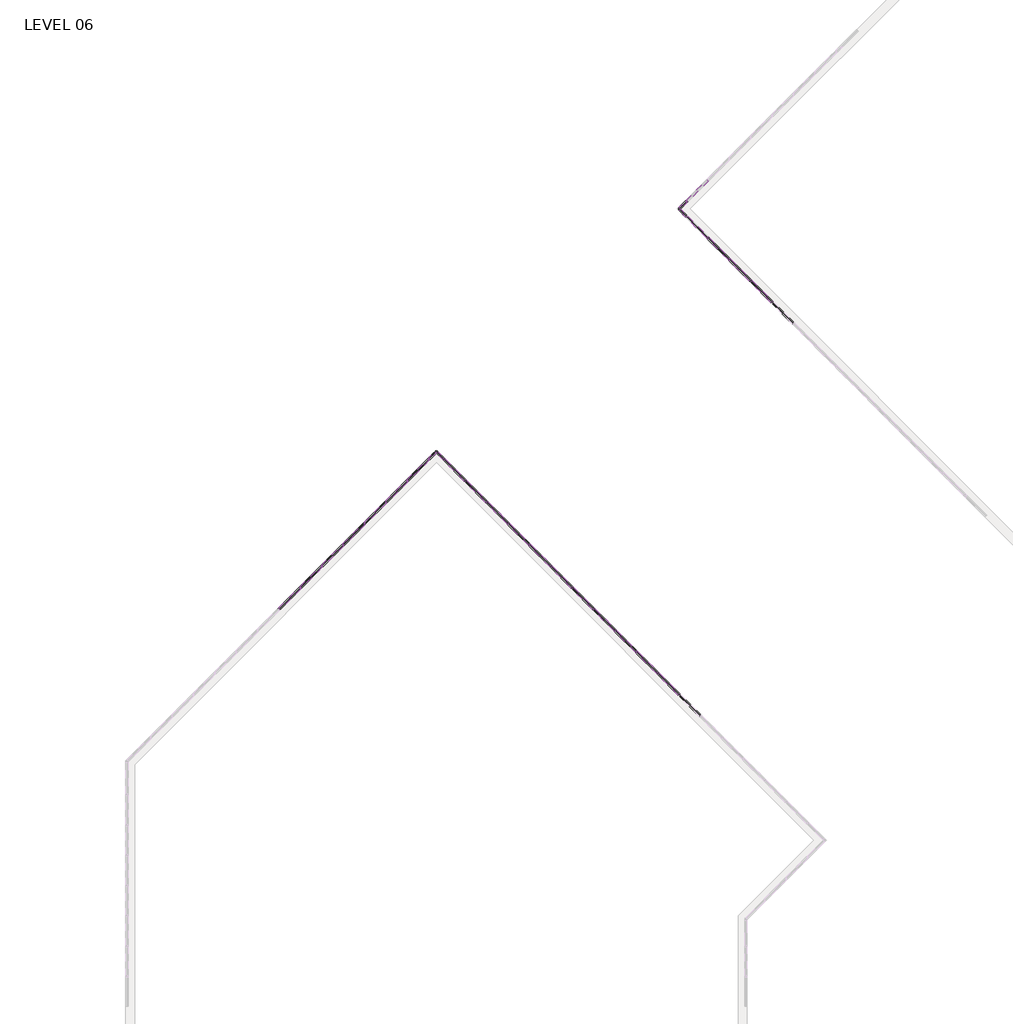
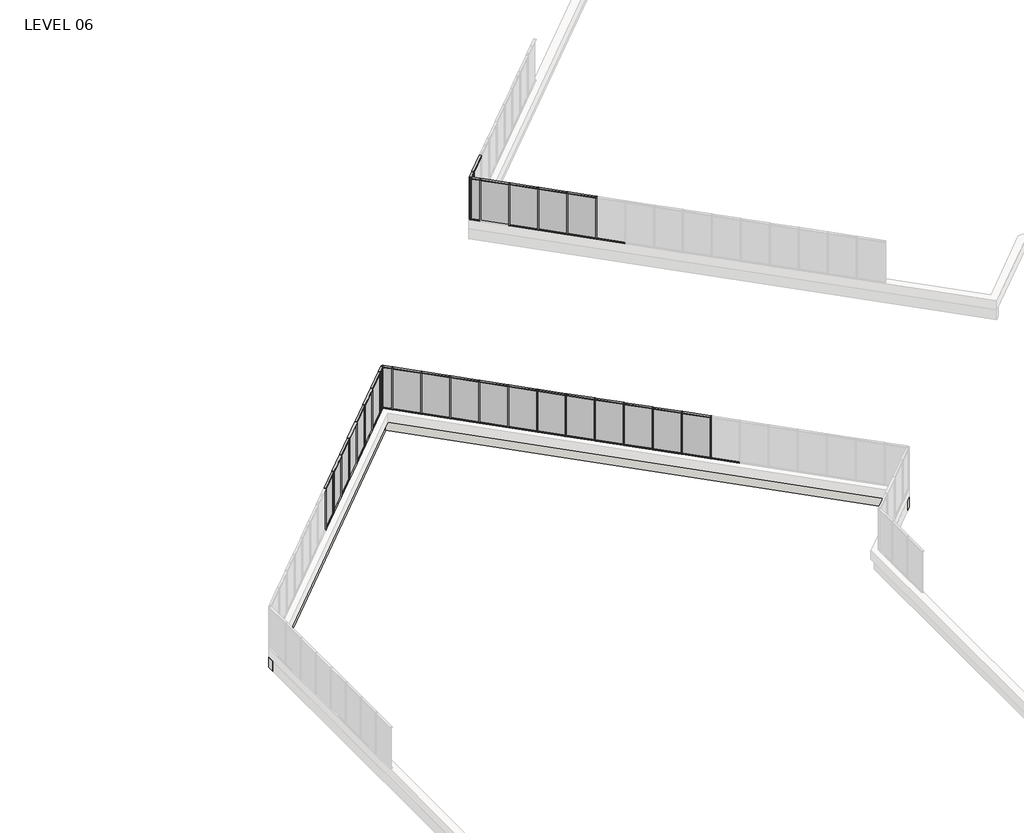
# One storey, part 6 of 17: 83 members, 26 plates, 2 walls.
"""IFC4 building model written with IfcOpenShell, lengths in millimetres."""

from ifc_helpers import new_model, si_unit, origin, place, context, project, spatial, faceted_brep, transform, mapped, element, save
from components import member_5247f267, member_e44af9ab, member_800970d4, member_ac5115e9, member_25b26a38, member_910c08c9, plate_67294edd, plate_c01932d8, plate_6d527a83, plate_88df3e37

model = new_model("IFC4")

# Units and contexts
model_context = context("Model", 3, world=origin())
ifc_project = project(units=[si_unit("LENGTHUNIT", "METRE", prefix="MILLI")], contexts=[model_context])

# Site, building, storey
site = spatial("IfcSite", under=ifc_project)
building = spatial("IfcBuilding", under=site)
storey = spatial("IfcBuildingStorey", under=building, Name="LEVEL 06", Elevation=19596.1)

# Members
placement = place(None, origin())
member_shape = member_5247f267(model_context)
element("IfcMember", 1, ObjectType="Rectangular Mullion : 2\" x 4.5\" rectangular", at=placement, inside=storey, context=model_context, shape_type="MappedRepresentation", body=[
    mapped(member_shape, transform((-3497.8097592, 103063.8559285, 19596.1), x_axis=(0.0, 0.0, -1.0), y_axis=(-0.7071067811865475, -0.7071067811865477, 0.0), z_axis=(-0.7071067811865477, 0.7071067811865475, 0.0))),
])
element("IfcMember", 2, ObjectType="Rectangular Mullion : 2\" x 4.5\" rectangular", at=placement, inside=storey, context=model_context, shape_type="MappedRepresentation", body=[
    mapped(member_shape, transform((-2420.1790246, 101986.2251939, 19596.1), x_axis=(0.0, 0.0, -1.0), y_axis=(-0.7071067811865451, -0.7071067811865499, 0.0), z_axis=(-0.7071067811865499, 0.7071067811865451, 0.0))),
])
element("IfcMember", 3, ObjectType="Rectangular Mullion : 2\" x 4.5\" rectangular", at=placement, inside=storey, context=model_context, shape_type="MappedRepresentation", body=[
    mapped(member_shape, transform((-1342.5482901, 100908.5944594, 19596.1), x_axis=(0.0, 0.0, -1.0), y_axis=(-0.7071067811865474, -0.7071067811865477, 0.0), z_axis=(-0.7071067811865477, 0.7071067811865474, 0.0))),
])
element("IfcMember", 4, ObjectType="Rectangular Mullion : 2\" x 4.5\" rectangular", at=placement, inside=storey, context=model_context, shape_type="MappedRepresentation", body=[
    mapped(member_shape, transform((-264.9175556, 99830.9637249, 19596.1), x_axis=(0.0, 0.0, -1.0), y_axis=(-0.7071067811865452, -0.7071067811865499, 0.0), z_axis=(-0.7071067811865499, 0.7071067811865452, 0.0))),
])
element("IfcMember", 5, ObjectType="Rectangular Mullion : 2\" x 4.5\" rectangular", at=placement, inside=storey, context=model_context, shape_type="MappedRepresentation", body=[
    mapped(member_shape, transform((-4575.6191663, 104942.0892742, 22186.9), x_axis=(0.0, 0.0, 1.0), y_axis=(-0.7071067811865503, 0.7071067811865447, 0.0), z_axis=(-0.7071067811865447, -0.7071067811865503, 0.0))),
])
element("IfcMember", 6, ObjectType="Rectangular Mullion : 2\" x 4.5\" rectangular", at=placement, inside=storey, context=model_context, shape_type="MappedRepresentation", body=[
    mapped(member_shape, transform((-3533.7307836, 103099.7769529, 22186.9), x_axis=(0.0, 0.0, 1.0), y_axis=(-0.7071067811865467, -0.7071067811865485, 0.0), z_axis=(0.7071067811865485, -0.7071067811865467, 0.0))),
])
element("IfcMember", 7, ObjectType="Rectangular Mullion : 2\" x 4.5\" rectangular", at=placement, inside=storey, context=model_context, shape_type="MappedRepresentation", body=[
    mapped(member_shape, transform((-2456.1000491, 102022.1462184, 22186.9), x_axis=(0.0, 0.0, 1.0), y_axis=(-0.7071067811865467, -0.7071067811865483, 0.0), z_axis=(0.7071067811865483, -0.7071067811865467, 0.0))),
])
element("IfcMember", 8, ObjectType="Rectangular Mullion : 2\" x 4.5\" rectangular", at=placement, inside=storey, context=model_context, shape_type="MappedRepresentation", body=[
    mapped(member_shape, transform((-1378.4693146, 100944.5154839, 22186.9), x_axis=(0.0, 0.0, 1.0), y_axis=(-0.707106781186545, -0.7071067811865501, 0.0), z_axis=(0.7071067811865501, -0.707106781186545, 0.0))),
])
element("IfcMember", 9, ObjectType="Rectangular Mullion : 2\" x 4.5\" rectangular", at=placement, inside=storey, context=model_context, shape_type="MappedRepresentation", body=[
    mapped(member_shape, transform((-300.8385801, 99866.8847494, 22186.9), x_axis=(0.0, 0.0, 1.0), y_axis=(-0.7071067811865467, -0.7071067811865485, 0.0), z_axis=(0.7071067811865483, -0.7071067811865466, 0.0))),
])
member_2_shape = member_e44af9ab(model_context)
element("IfcMember", 10, ObjectType="Rectangular Mullion : 2\" x 4.5\" rectangular", at=placement, inside=storey, context=model_context, shape_type="MappedRepresentation", body=[
    mapped(member_2_shape, transform((-4593.5796786, 104924.128762, 19596.1), x_axis=(-0.7071067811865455, -0.7071067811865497, 0.0), y_axis=(-0.7071067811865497, 0.7071067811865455, 0.0), z_axis=(0.0, 0.0, -1.0))),
])
element("IfcMember", 11, ObjectType="Rectangular Mullion : 2\" x 4.5\" rectangular", at=placement, inside=storey, context=model_context, shape_type="MappedRepresentation", body=[
    mapped(member_2_shape, transform((-3515.7702714, 103081.8164407, 19596.1), x_axis=(0.7071067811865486, -0.7071067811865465, 0.0), y_axis=(-0.7071067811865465, -0.7071067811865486, 0.0), z_axis=(0.0, 0.0, -1.0))),
])
element("IfcMember", 12, ObjectType="Rectangular Mullion : 2\" x 4.5\" rectangular", at=placement, inside=storey, context=model_context, shape_type="MappedRepresentation", body=[
    mapped(member_2_shape, transform((-2438.1395369, 102004.1857062, 19596.1), x_axis=(0.7071067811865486, -0.7071067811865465, 0.0), y_axis=(-0.7071067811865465, -0.7071067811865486, 0.0), z_axis=(0.0, 0.0, -1.0))),
])
element("IfcMember", 13, ObjectType="Rectangular Mullion : 2\" x 4.5\" rectangular", at=placement, inside=storey, context=model_context, shape_type="MappedRepresentation", body=[
    mapped(member_2_shape, transform((-1360.5088023, 100926.5549716, 19596.1), x_axis=(0.7071067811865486, -0.7071067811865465, 0.0), y_axis=(-0.7071067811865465, -0.7071067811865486, 0.0), z_axis=(0.0, 0.0, -1.0))),
])
element("IfcMember", 14, ObjectType="Rectangular Mullion : 2\" x 4.5\" rectangular", at=placement, inside=storey, context=model_context, shape_type="MappedRepresentation", body=[
    mapped(member_2_shape, transform((-282.8780678, 99848.9242371, 19596.1), x_axis=(0.7071067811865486, -0.7071067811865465, 0.0), y_axis=(-0.7071067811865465, -0.7071067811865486, 0.0), z_axis=(0.0, 0.0, -1.0))),
])
member_3_shape = member_800970d4(model_context)
element("IfcMember", 15, ObjectType="Rectangular Mullion : 2\" x 4.5\" rectangular", at=placement, inside=storey, context=model_context, shape_type="MappedRepresentation", body=[
    mapped(member_3_shape, transform((-4975.8311356, 104541.8773049, 19596.1), x_axis=(-0.7071067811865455, -0.7071067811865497, 0.0), y_axis=(-0.7071067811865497, 0.7071067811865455, 0.0), z_axis=(0.0, 0.0, -1.0))),
])
element("IfcMember", 16, ObjectType="Rectangular Mullion : 2\" x 4.5\" rectangular", at=placement, inside=storey, context=model_context, shape_type="MappedRepresentation", body=[
    mapped(member_3_shape, transform((-4975.8311356, 104541.8773049, 22186.9), x_axis=(-0.7071067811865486, 0.7071067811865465, 0.0), y_axis=(-0.7071067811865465, -0.7071067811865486, 0.0), z_axis=(0.0, 0.0, 1.0))),
])
member_4_shape = member_ac5115e9(model_context)
element("IfcMember", 17, ObjectType="Rectangular Mullion : 2\" x 4.5\" rectangular", at=placement, inside=storey, context=model_context, shape_type="MappedRepresentation", body=[
    mapped(member_4_shape, transform((-4939.9101111, 104577.7983294, 22186.9), x_axis=(0.0, 0.0, 1.0), y_axis=(-0.7071067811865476, 0.7071067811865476, 0.0), z_axis=(-0.7071067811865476, -0.7071067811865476, 0.0))),
])
element("IfcMember", 18, ObjectType="Rectangular Mullion : 2\" x 4.5\" rectangular", at=placement, inside=storey, context=model_context, shape_type="MappedRepresentation", body=[
    mapped(member_4_shape, transform((-4611.5401908, 104906.1682497, 19596.1), x_axis=(0.0, 0.0, -1.0), y_axis=(-0.7071067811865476, 0.7071067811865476, 0.0), z_axis=(0.7071067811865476, 0.7071067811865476, 0.0))),
])
member_5_shape = member_25b26a38(model_context)
element("IfcMember", 19, ObjectType="Rectangular Mullion : 2\" x 4.5\" rectangular", at=placement, inside=storey, context=model_context, shape_type="MappedRepresentation", body=[
    mapped(member_5_shape, transform((-4939.9101111, 104505.9562804, 19596.1), x_axis=(0.0, 0.0, -1.0), y_axis=(-0.7071067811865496, -0.7071067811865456, 0.0), z_axis=(-0.7071067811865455, 0.7071067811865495, 0.0))),
])
element("IfcMember", 20, ObjectType="Rectangular Mullion : 2\" x 4.5\" rectangular", at=placement, inside=storey, context=model_context, shape_type="MappedRepresentation", body=[
    mapped(member_5_shape, transform((-4611.3615182, 104177.4076875, 22186.9), x_axis=(0.0, 0.0, 1.0), y_axis=(-0.707106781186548, -0.707106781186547, 0.0), z_axis=(0.707106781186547, -0.707106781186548, 0.0))),
])
element("IfcMember", 21, ObjectType="Rectangular Mullion : 2\" x 4.5\" rectangular", at=placement, inside=storey, context=model_context, shape_type="MappedRepresentation", body=[
    mapped(member_shape, transform((-24063.9560929, 85453.7523477, 22186.9), x_axis=(0.0, 0.0, 1.0), y_axis=(0.707106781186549, -0.7071067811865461, 0.0), z_axis=(0.7071067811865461, 0.707106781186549, 0.0))),
])
element("IfcMember", 22, ObjectType="Rectangular Mullion : 2\" x 4.5\" rectangular", at=placement, inside=storey, context=model_context, shape_type="MappedRepresentation", body=[
    mapped(member_shape, transform((-18675.8024202, 90841.9060203, 22186.9), x_axis=(0.0, 0.0, 1.0), y_axis=(0.707106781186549, -0.7071067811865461, 0.0), z_axis=(0.7071067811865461, 0.707106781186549, 0.0))),
])
element("IfcMember", 23, ObjectType="Rectangular Mullion : 2\" x 4.5\" rectangular", at=placement, inside=storey, context=model_context, shape_type="MappedRepresentation", body=[
    mapped(member_shape, transform((-21908.6946238, 87609.0138167, 22186.9), x_axis=(0.0, 0.0, 1.0), y_axis=(0.707106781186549, -0.7071067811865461, 0.0), z_axis=(0.7071067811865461, 0.707106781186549, 0.0))),
])
element("IfcMember", 24, ObjectType="Rectangular Mullion : 2\" x 4.5\" rectangular", at=placement, inside=storey, context=model_context, shape_type="MappedRepresentation", body=[
    mapped(member_shape, transform((-22986.3253583, 86531.3830822, 22186.9), x_axis=(0.0, 0.0, 1.0), y_axis=(0.7071067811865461, -0.707106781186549, 0.0), z_axis=(0.707106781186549, 0.7071067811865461, 0.0))),
])
element("IfcMember", 25, ObjectType="Rectangular Mullion : 2\" x 4.5\" rectangular", at=placement, inside=storey, context=model_context, shape_type="MappedRepresentation", body=[
    mapped(member_shape, transform((-20831.0638893, 88686.6445513, 22186.9), x_axis=(0.0, 0.0, 1.0), y_axis=(0.7071067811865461, -0.707106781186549, 0.0), z_axis=(0.707106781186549, 0.7071067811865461, 0.0))),
])
element("IfcMember", 26, ObjectType="Rectangular Mullion : 2\" x 4.5\" rectangular", at=placement, inside=storey, context=model_context, shape_type="MappedRepresentation", body=[
    mapped(member_shape, transform((-19753.4331548, 89764.2752858, 22186.9), x_axis=(0.0, 0.0, 1.0), y_axis=(0.7071067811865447, -0.7071067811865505, 0.0), z_axis=(0.7071067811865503, 0.7071067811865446, 0.0))),
])
element("IfcMember", 27, ObjectType="Rectangular Mullion : 2\" x 4.5\" rectangular", at=placement, inside=storey, context=model_context, shape_type="MappedRepresentation", body=[
    mapped(member_shape, transform((-17598.1716857, 91919.5367548, 22186.9), x_axis=(0.0, 0.0, 1.0), y_axis=(0.7071067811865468, -0.7071067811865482, 0.0), z_axis=(0.7071067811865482, 0.7071067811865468, 0.0))),
])
element("IfcMember", 28, ObjectType="Rectangular Mullion : 2\" x 4.5\" rectangular", at=placement, inside=storey, context=model_context, shape_type="MappedRepresentation", body=[
    mapped(member_shape, transform((-15755.8593644, 90877.6483722, 22186.9), x_axis=(0.0, 0.0, 1.0), y_axis=(-0.7071067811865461, -0.707106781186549, 0.0), z_axis=(0.707106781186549, -0.7071067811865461, 0.0))),
])
element("IfcMember", 29, ObjectType="Rectangular Mullion : 2\" x 4.5\" rectangular", at=placement, inside=storey, context=model_context, shape_type="MappedRepresentation", body=[
    mapped(member_shape, transform((-14678.2286299, 89800.0176376, 22186.9), x_axis=(0.0, 0.0, 1.0), y_axis=(-0.7071067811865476, -0.7071067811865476, 0.0), z_axis=(0.7071067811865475, -0.7071067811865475, 0.0))),
])
element("IfcMember", 30, ObjectType="Rectangular Mullion : 2\" x 4.5\" rectangular", at=placement, inside=storey, context=model_context, shape_type="MappedRepresentation", body=[
    mapped(member_shape, transform((-13600.5978954, 88722.3869031, 22186.9), x_axis=(0.0, 0.0, 1.0), y_axis=(-0.7071067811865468, -0.7071067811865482, 0.0), z_axis=(0.7071067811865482, -0.7071067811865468, 0.0))),
])
element("IfcMember", 31, ObjectType="Rectangular Mullion : 2\" x 4.5\" rectangular", at=placement, inside=storey, context=model_context, shape_type="MappedRepresentation", body=[
    mapped(member_shape, transform((-11445.3364263, 86567.125434, 22186.9), x_axis=(0.0, 0.0, 1.0), y_axis=(-0.7071067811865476, -0.7071067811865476, 0.0), z_axis=(0.7071067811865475, -0.7071067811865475, 0.0))),
])
element("IfcMember", 32, ObjectType="Rectangular Mullion : 2\" x 4.5\" rectangular", at=placement, inside=storey, context=model_context, shape_type="MappedRepresentation", body=[
    mapped(member_shape, transform((-10367.7056918, 85489.4946995, 22186.9), x_axis=(0.0, 0.0, 1.0), y_axis=(-0.7071067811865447, -0.7071067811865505, 0.0), z_axis=(0.7071067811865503, -0.7071067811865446, 0.0))),
])
element("IfcMember", 33, ObjectType="Rectangular Mullion : 2\" x 4.5\" rectangular", at=placement, inside=storey, context=model_context, shape_type="MappedRepresentation", body=[
    mapped(member_shape, transform((-9290.0749572, 84411.863965, 22186.9), x_axis=(0.0, 0.0, 1.0), y_axis=(-0.7071067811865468, -0.7071067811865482, 0.0), z_axis=(0.7071067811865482, -0.7071067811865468, 0.0))),
])
element("IfcMember", 34, ObjectType="Rectangular Mullion : 2\" x 4.5\" rectangular", at=placement, inside=storey, context=model_context, shape_type="MappedRepresentation", body=[
    mapped(member_shape, transform((-8212.4442227, 83334.2332305, 22186.9), x_axis=(0.0, 0.0, 1.0), y_axis=(-0.7071067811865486, -0.7071067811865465, 0.0), z_axis=(0.7071067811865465, -0.7071067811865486, 0.0))),
])
element("IfcMember", 35, ObjectType="Rectangular Mullion : 2\" x 4.5\" rectangular", at=placement, inside=storey, context=model_context, shape_type="MappedRepresentation", body=[
    mapped(member_shape, transform((-4979.9093644, 80101.6983722, 22186.9), x_axis=(0.0, 0.0, 1.0), y_axis=(-0.7071067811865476, -0.7071067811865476, 0.0), z_axis=(0.7071067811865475, -0.7071067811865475, 0.0))),
])
element("IfcMember", 36, ObjectType="Rectangular Mullion : 2\" x 4.5\" rectangular", at=placement, inside=storey, context=model_context, shape_type="MappedRepresentation", body=[
    mapped(member_shape, transform((-12522.9671608, 87644.7561686, 22186.9), x_axis=(0.0, 0.0, 1.0), y_axis=(-0.7071067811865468, -0.7071067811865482, 0.0), z_axis=(0.7071067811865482, -0.7071067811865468, 0.0))),
])
element("IfcMember", 37, ObjectType="Rectangular Mullion : 2\" x 4.5\" rectangular", at=placement, inside=storey, context=model_context, shape_type="MappedRepresentation", body=[
    mapped(member_shape, transform((-25105.6658029, 84412.0426376, 19596.1), x_axis=(0.0, 0.0, -1.0), y_axis=(0.707106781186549, -0.7071067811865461, 0.0), z_axis=(-0.7071067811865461, -0.707106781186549, 0.0))),
])
element("IfcMember", 38, ObjectType="Rectangular Mullion : 2\" x 4.5\" rectangular", at=placement, inside=storey, context=model_context, shape_type="MappedRepresentation", body=[
    mapped(member_shape, transform((-24028.0350684, 85489.6733722, 19596.1), x_axis=(0.0, 0.0, -1.0), y_axis=(0.7071067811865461, -0.707106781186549, 0.0), z_axis=(-0.707106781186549, -0.7071067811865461, 0.0))),
])
element("IfcMember", 39, ObjectType="Rectangular Mullion : 2\" x 4.5\" rectangular", at=placement, inside=storey, context=model_context, shape_type="MappedRepresentation", body=[
    mapped(member_shape, transform((-18639.8813957, 90877.8270448, 19596.1), x_axis=(0.0, 0.0, -1.0), y_axis=(0.7071067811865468, -0.7071067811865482, 0.0), z_axis=(-0.7071067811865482, -0.7071067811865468, 0.0))),
])
element("IfcMember", 40, ObjectType="Rectangular Mullion : 2\" x 4.5\" rectangular", at=placement, inside=storey, context=model_context, shape_type="MappedRepresentation", body=[
    mapped(member_shape, transform((-21872.7735993, 87644.9348412, 19596.1), x_axis=(0.0, 0.0, -1.0), y_axis=(0.7071067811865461, -0.707106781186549, 0.0), z_axis=(-0.707106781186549, -0.7071067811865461, 0.0))),
])
element("IfcMember", 41, ObjectType="Rectangular Mullion : 2\" x 4.5\" rectangular", at=placement, inside=storey, context=model_context, shape_type="MappedRepresentation", body=[
    mapped(member_shape, transform((-22950.4043339, 86567.3041067, 19596.1), x_axis=(0.0, 0.0, -1.0), y_axis=(0.707106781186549, -0.7071067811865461, 0.0), z_axis=(-0.7071067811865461, -0.707106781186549, 0.0))),
])
element("IfcMember", 42, ObjectType="Rectangular Mullion : 2\" x 4.5\" rectangular", at=placement, inside=storey, context=model_context, shape_type="MappedRepresentation", body=[
    mapped(member_shape, transform((-20795.1428648, 88722.5655757, 19596.1), x_axis=(0.0, 0.0, -1.0), y_axis=(0.7071067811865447, -0.7071067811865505, 0.0), z_axis=(-0.7071067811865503, -0.7071067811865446, 0.0))),
])
element("IfcMember", 43, ObjectType="Rectangular Mullion : 2\" x 4.5\" rectangular", at=placement, inside=storey, context=model_context, shape_type="MappedRepresentation", body=[
    mapped(member_shape, transform((-19717.5121303, 89800.1963103, 19596.1), x_axis=(0.0, 0.0, -1.0), y_axis=(0.707106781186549, -0.7071067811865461, 0.0), z_axis=(-0.7071067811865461, -0.707106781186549, 0.0))),
])
element("IfcMember", 44, ObjectType="Rectangular Mullion : 2\" x 4.5\" rectangular", at=placement, inside=storey, context=model_context, shape_type="MappedRepresentation", body=[
    mapped(member_shape, transform((-15719.9383399, 90841.7273477, 19596.1), x_axis=(0.0, 0.0, -1.0), y_axis=(-0.7071067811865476, -0.7071067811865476, 0.0), z_axis=(-0.7071067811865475, 0.7071067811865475, 0.0))),
])
element("IfcMember", 45, ObjectType="Rectangular Mullion : 2\" x 4.5\" rectangular", at=placement, inside=storey, context=model_context, shape_type="MappedRepresentation", body=[
    mapped(member_shape, transform((-14642.3076054, 89764.0966131, 19596.1), x_axis=(0.0, 0.0, -1.0), y_axis=(-0.707106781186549, -0.7071067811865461, 0.0), z_axis=(-0.7071067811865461, 0.707106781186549, 0.0))),
])
element("IfcMember", 46, ObjectType="Rectangular Mullion : 2\" x 4.5\" rectangular", at=placement, inside=storey, context=model_context, shape_type="MappedRepresentation", body=[
    mapped(member_shape, transform((-13564.6768709, 88686.4658786, 19596.1), x_axis=(0.0, 0.0, -1.0), y_axis=(-0.7071067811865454, -0.7071067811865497, 0.0), z_axis=(-0.7071067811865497, 0.7071067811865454, 0.0))),
])
element("IfcMember", 47, ObjectType="Rectangular Mullion : 2\" x 4.5\" rectangular", at=placement, inside=storey, context=model_context, shape_type="MappedRepresentation", body=[
    mapped(member_shape, transform((-11409.4154018, 86531.2044096, 19596.1), x_axis=(0.0, 0.0, -1.0), y_axis=(-0.7071067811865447, -0.7071067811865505, 0.0), z_axis=(-0.7071067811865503, 0.7071067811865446, 0.0))),
])
element("IfcMember", 48, ObjectType="Rectangular Mullion : 2\" x 4.5\" rectangular", at=placement, inside=storey, context=model_context, shape_type="MappedRepresentation", body=[
    mapped(member_shape, transform((-10331.7846673, 85453.573675, 19596.1), x_axis=(0.0, 0.0, -1.0), y_axis=(-0.7071067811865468, -0.7071067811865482, 0.0), z_axis=(-0.7071067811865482, 0.7071067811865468, 0.0))),
])
element("IfcMember", 49, ObjectType="Rectangular Mullion : 2\" x 4.5\" rectangular", at=placement, inside=storey, context=model_context, shape_type="MappedRepresentation", body=[
    mapped(member_shape, transform((-9254.1539328, 84375.9429405, 19596.1), x_axis=(0.0, 0.0, -1.0), y_axis=(-0.7071067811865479, -0.7071067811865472, 0.0), z_axis=(-0.7071067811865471, 0.7071067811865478, 0.0))),
])
element("IfcMember", 50, ObjectType="Rectangular Mullion : 2\" x 4.5\" rectangular", at=placement, inside=storey, context=model_context, shape_type="MappedRepresentation", body=[
    mapped(member_shape, transform((-6021.6190745, 81143.4080822, 19596.1), x_axis=(0.0, 0.0, -1.0), y_axis=(-0.7071067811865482, -0.7071067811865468, 0.0), z_axis=(-0.7071067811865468, 0.7071067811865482, 0.0))),
])
element("IfcMember", 51, ObjectType="Rectangular Mullion : 2\" x 4.5\" rectangular", at=placement, inside=storey, context=model_context, shape_type="MappedRepresentation", body=[
    mapped(member_shape, transform((-4943.9883399, 80065.7773477, 19596.1), x_axis=(0.0, 0.0, -1.0), y_axis=(-0.7071067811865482, -0.7071067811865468, 0.0), z_axis=(-0.7071067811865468, 0.7071067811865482, 0.0))),
])
element("IfcMember", 52, ObjectType="Rectangular Mullion : 2\" x 4.5\" rectangular", at=placement, inside=storey, context=model_context, shape_type="MappedRepresentation", body=[
    mapped(member_shape, transform((-12487.0461363, 87608.8351441, 19596.1), x_axis=(0.0, 0.0, -1.0), y_axis=(-0.7071067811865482, -0.7071067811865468, 0.0), z_axis=(-0.7071067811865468, 0.7071067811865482, 0.0))),
])
element("IfcMember", 53, ObjectType="Rectangular Mullion : 2\" x 4.5\" rectangular", at=placement, inside=storey, context=model_context, shape_type="MappedRepresentation", body=[
    mapped(member_shape, transform((-16797.5690745, 91919.3580822, 19596.1), x_axis=(0.0, 0.0, -1.0), y_axis=(-0.7071067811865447, -0.7071067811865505, 0.0), z_axis=(-0.7071067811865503, 0.7071067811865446, 0.0))),
])
element("IfcMember", 54, ObjectType="Rectangular Mullion : 2\" x 4.5\" rectangular", at=placement, inside=storey, context=model_context, shape_type="MappedRepresentation", body=[
    mapped(member_2_shape, transform((-25123.6263152, 84394.0821254, 19596.1), x_axis=(0.7071067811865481, 0.7071067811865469, 0.0), y_axis=(0.7071067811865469, -0.7071067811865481, 0.0), z_axis=(0.0, 0.0, -1.0))),
])
element("IfcMember", 55, ObjectType="Rectangular Mullion : 2\" x 4.5\" rectangular", at=placement, inside=storey, context=model_context, shape_type="MappedRepresentation", body=[
    mapped(member_2_shape, transform((-24045.9955806, 85471.7128599, 19596.1), x_axis=(0.7071067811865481, 0.7071067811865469, 0.0), y_axis=(0.7071067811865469, -0.7071067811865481, 0.0), z_axis=(0.0, 0.0, -1.0))),
])
element("IfcMember", 56, ObjectType="Rectangular Mullion : 2\" x 4.5\" rectangular", at=placement, inside=storey, context=model_context, shape_type="MappedRepresentation", body=[
    mapped(member_2_shape, transform((-18657.841908, 90859.8665326, 19596.1), x_axis=(0.7071067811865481, 0.7071067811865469, 0.0), y_axis=(0.7071067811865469, -0.7071067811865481, 0.0), z_axis=(0.0, 0.0, -1.0))),
])
element("IfcMember", 57, ObjectType="Rectangular Mullion : 2\" x 4.5\" rectangular", at=placement, inside=storey, context=model_context, shape_type="MappedRepresentation", body=[
    mapped(member_2_shape, transform((-21890.7341116, 87626.974329, 19596.1), x_axis=(0.7071067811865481, 0.7071067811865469, 0.0), y_axis=(0.7071067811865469, -0.7071067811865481, 0.0), z_axis=(0.0, 0.0, -1.0))),
])
element("IfcMember", 58, ObjectType="Rectangular Mullion : 2\" x 4.5\" rectangular", at=placement, inside=storey, context=model_context, shape_type="MappedRepresentation", body=[
    mapped(member_2_shape, transform((-22968.3648461, 86549.3435944, 19596.1), x_axis=(0.7071067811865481, 0.7071067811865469, 0.0), y_axis=(0.7071067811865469, -0.7071067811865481, 0.0), z_axis=(0.0, 0.0, -1.0))),
])
element("IfcMember", 59, ObjectType="Rectangular Mullion : 2\" x 4.5\" rectangular", at=placement, inside=storey, context=model_context, shape_type="MappedRepresentation", body=[
    mapped(member_2_shape, transform((-20813.103377, 88704.6050635, 19596.1), x_axis=(0.7071067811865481, 0.7071067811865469, 0.0), y_axis=(0.7071067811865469, -0.7071067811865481, 0.0), z_axis=(0.0, 0.0, -1.0))),
])
element("IfcMember", 60, ObjectType="Rectangular Mullion : 2\" x 4.5\" rectangular", at=placement, inside=storey, context=model_context, shape_type="MappedRepresentation", body=[
    mapped(member_2_shape, transform((-19735.4726425, 89782.235798, 19596.1), x_axis=(0.7071067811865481, 0.7071067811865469, 0.0), y_axis=(0.7071067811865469, -0.7071067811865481, 0.0), z_axis=(0.0, 0.0, -1.0))),
])
element("IfcMember", 61, ObjectType="Rectangular Mullion : 2\" x 4.5\" rectangular", at=placement, inside=storey, context=model_context, shape_type="MappedRepresentation", body=[
    mapped(member_2_shape, transform((-17580.2111735, 91937.4972671, 19596.1), x_axis=(0.7071067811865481, 0.7071067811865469, 0.0), y_axis=(0.7071067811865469, -0.7071067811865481, 0.0), z_axis=(0.0, 0.0, -1.0))),
])
element("IfcMember", 62, ObjectType="Rectangular Mullion : 2\" x 4.5\" rectangular", at=placement, inside=storey, context=model_context, shape_type="MappedRepresentation", body=[
    mapped(member_2_shape, transform((-15737.8988522, 90859.6878599, 19596.1), x_axis=(0.707106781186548, -0.7071067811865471, 0.0), y_axis=(-0.7071067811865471, -0.707106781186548, 0.0), z_axis=(0.0, 0.0, -1.0))),
])
element("IfcMember", 63, ObjectType="Rectangular Mullion : 2\" x 4.5\" rectangular", at=placement, inside=storey, context=model_context, shape_type="MappedRepresentation", body=[
    mapped(member_2_shape, transform((-14660.2681176, 89782.0571254, 19596.1), x_axis=(0.707106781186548, -0.7071067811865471, 0.0), y_axis=(-0.7071067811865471, -0.707106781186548, 0.0), z_axis=(0.0, 0.0, -1.0))),
])
element("IfcMember", 64, ObjectType="Rectangular Mullion : 2\" x 4.5\" rectangular", at=placement, inside=storey, context=model_context, shape_type="MappedRepresentation", body=[
    mapped(member_2_shape, transform((-13582.6373831, 88704.4263909, 19596.1), x_axis=(0.707106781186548, -0.7071067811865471, 0.0), y_axis=(-0.7071067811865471, -0.707106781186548, 0.0), z_axis=(0.0, 0.0, -1.0))),
])
element("IfcMember", 65, ObjectType="Rectangular Mullion : 2\" x 4.5\" rectangular", at=placement, inside=storey, context=model_context, shape_type="MappedRepresentation", body=[
    mapped(member_2_shape, transform((-11427.3759141, 86549.1649218, 19596.1), x_axis=(0.707106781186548, -0.7071067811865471, 0.0), y_axis=(-0.7071067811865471, -0.707106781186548, 0.0), z_axis=(0.0, 0.0, -1.0))),
])
element("IfcMember", 66, ObjectType="Rectangular Mullion : 2\" x 4.5\" rectangular", at=placement, inside=storey, context=model_context, shape_type="MappedRepresentation", body=[
    mapped(member_2_shape, transform((-10349.7451795, 85471.5341873, 19596.1), x_axis=(0.707106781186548, -0.7071067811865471, 0.0), y_axis=(-0.7071067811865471, -0.707106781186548, 0.0), z_axis=(0.0, 0.0, -1.0))),
])
element("IfcMember", 67, ObjectType="Rectangular Mullion : 2\" x 4.5\" rectangular", at=placement, inside=storey, context=model_context, shape_type="MappedRepresentation", body=[
    mapped(member_2_shape, transform((-9272.114445, 84393.9034527, 19596.1), x_axis=(0.707106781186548, -0.7071067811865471, 0.0), y_axis=(-0.7071067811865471, -0.707106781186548, 0.0), z_axis=(0.0, 0.0, -1.0))),
])
element("IfcMember", 68, ObjectType="Rectangular Mullion : 2\" x 4.5\" rectangular", at=placement, inside=storey, context=model_context, shape_type="MappedRepresentation", body=[
    mapped(member_2_shape, transform((-8194.4837105, 83316.2727182, 19596.1), x_axis=(0.707106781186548, -0.7071067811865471, 0.0), y_axis=(-0.7071067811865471, -0.707106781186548, 0.0), z_axis=(0.0, 0.0, -1.0))),
])
element("IfcMember", 69, ObjectType="Rectangular Mullion : 2\" x 4.5\" rectangular", at=placement, inside=storey, context=model_context, shape_type="MappedRepresentation", body=[
    mapped(member_2_shape, transform((-6039.5795867, 81161.3685944, 19596.1), x_axis=(0.707106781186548, -0.7071067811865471, 0.0), y_axis=(-0.7071067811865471, -0.707106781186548, 0.0), z_axis=(0.0, 0.0, -1.0))),
])
element("IfcMember", 70, ObjectType="Rectangular Mullion : 2\" x 4.5\" rectangular", at=placement, inside=storey, context=model_context, shape_type="MappedRepresentation", body=[
    mapped(member_2_shape, transform((-4961.9488522, 80083.7378599, 19596.1), x_axis=(0.707106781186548, -0.7071067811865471, 0.0), y_axis=(-0.7071067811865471, -0.707106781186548, 0.0), z_axis=(0.0, 0.0, -1.0))),
])
element("IfcMember", 71, ObjectType="Rectangular Mullion : 2\" x 4.5\" rectangular", at=placement, inside=storey, context=model_context, shape_type="MappedRepresentation", body=[
    mapped(member_2_shape, transform((-12505.0066486, 87626.7956563, 19596.1), x_axis=(0.707106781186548, -0.7071067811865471, 0.0), y_axis=(-0.7071067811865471, -0.707106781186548, 0.0), z_axis=(0.0, 0.0, -1.0))),
])
element("IfcMember", 72, ObjectType="Rectangular Mullion : 2\" x 4.5\" rectangular", at=placement, inside=storey, context=model_context, shape_type="MappedRepresentation", body=[
    mapped(member_2_shape, transform((-16815.5295867, 91937.3185944, 19596.1), x_axis=(0.707106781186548, -0.7071067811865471, 0.0), y_axis=(-0.7071067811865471, -0.707106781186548, 0.0), z_axis=(0.0, 0.0, -1.0))),
])
element("IfcMember", 73, ObjectType="Rectangular Mullion : 2\" x 4.5\" rectangular", at=placement, inside=storey, context=model_context, shape_type="MappedRepresentation", body=[
    mapped(member_2_shape, transform((-7117.0316486, 82238.8206563, 19596.1), x_axis=(0.707106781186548, -0.7071067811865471, 0.0), y_axis=(-0.7071067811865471, -0.707106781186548, 0.0), z_axis=(0.0, 0.0, -1.0))),
])
element("IfcMember", 74, ObjectType="Rectangular Mullion : 2\" x 4.5\" rectangular", at=placement, inside=storey, context=model_context, shape_type="MappedRepresentation", body=[
    mapped(member_3_shape, transform((-17197.9597164, 92319.7487241, 19596.1), x_axis=(0.7071067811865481, 0.7071067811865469, 0.0), y_axis=(0.7071067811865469, -0.7071067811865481, 0.0), z_axis=(0.0, 0.0, -1.0))),
])
element("IfcMember", 75, ObjectType="Rectangular Mullion : 2\" x 4.5\" rectangular", at=placement, inside=storey, context=model_context, shape_type="MappedRepresentation", body=[
    mapped(member_3_shape, transform((-17197.9597164, 92319.7487241, 22186.9), x_axis=(-0.707106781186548, 0.7071067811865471, 0.0), y_axis=(-0.7071067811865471, -0.707106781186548, 0.0), z_axis=(0.0, 0.0, 1.0))),
])
element("IfcMember", 76, ObjectType="Rectangular Mullion : 2\" x 4.5\" rectangular", at=placement, inside=storey, context=model_context, shape_type="MappedRepresentation", body=[
    mapped(member_5_shape, transform((-16833.4900989, 91955.2791067, 22186.9), x_axis=(0.0, 0.0, 1.0), y_axis=(-0.7071067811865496, -0.7071067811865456, 0.0), z_axis=(0.7071067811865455, -0.7071067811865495, 0.0))),
])
element("IfcMember", 77, ObjectType="Rectangular Mullion : 2\" x 4.5\" rectangular", at=placement, inside=storey, context=model_context, shape_type="MappedRepresentation", body=[
    mapped(member_5_shape, transform((-17162.0386919, 92283.8276997, 19596.1), x_axis=(0.0, 0.0, -1.0), y_axis=(-0.7071067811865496, -0.7071067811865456, 0.0), z_axis=(-0.7071067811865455, 0.7071067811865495, 0.0))),
])
element("IfcMember", 78, ObjectType="Rectangular Mullion : 2\" x 4.5\" rectangular", at=placement, inside=storey, context=model_context, shape_type="MappedRepresentation", body=[
    mapped(member_4_shape, transform((-17233.8807409, 92283.8276997, 22186.9), x_axis=(0.0, 0.0, 1.0), y_axis=(0.7071067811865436, -0.7071067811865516, 0.0), z_axis=(0.7071067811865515, 0.7071067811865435, 0.0))),
])
element("IfcMember", 79, ObjectType="Rectangular Mullion : 2\" x 4.5\" rectangular", at=placement, inside=storey, context=model_context, shape_type="MappedRepresentation", body=[
    mapped(member_4_shape, transform((-17562.2506612, 91955.4577793, 19596.1), x_axis=(0.0, 0.0, -1.0), y_axis=(0.7071067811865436, -0.7071067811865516, 0.0), z_axis=(-0.7071067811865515, -0.7071067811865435, 0.0))),
])
member_6_shape = member_910c08c9(model_context)
element("IfcMember", 80, ObjectType="Rectangular Mullion : 2\" x 4.5\" rectangular", at=placement, inside=storey, context=model_context, shape_type="MappedRepresentation", body=[
    mapped(member_6_shape, transform((-6057.5400989, 81179.3291067, 22186.9), x_axis=(0.0, 0.0, 1.0), y_axis=(-0.7071067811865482, -0.7071067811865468, 0.0), z_axis=(0.7071067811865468, -0.7071067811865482, 0.0))),
])
element("IfcMember", 81, ObjectType="Rectangular Mullion : 2\" x 4.5\" rectangular", at=placement, inside=storey, context=model_context, shape_type="MappedRepresentation", body=[
    mapped(member_6_shape, transform((-7134.9921608, 82256.7811686, 22186.9), x_axis=(0.0, 0.0, 1.0), y_axis=(-0.7071067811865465, -0.7071067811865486, 0.0), z_axis=(0.7071067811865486, -0.7071067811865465, 0.0))),
])
element("IfcMember", 82, ObjectType="Rectangular Mullion : 2\" x 4.5\" rectangular", at=placement, inside=storey, context=model_context, shape_type="MappedRepresentation", body=[
    mapped(member_6_shape, transform((-8176.5231982, 83298.312206, 19596.1), x_axis=(0.0, 0.0, -1.0), y_axis=(-0.7071067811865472, -0.7071067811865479, 0.0), z_axis=(-0.7071067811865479, 0.7071067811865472, 0.0))),
])
element("IfcMember", 83, ObjectType="Rectangular Mullion : 2\" x 4.5\" rectangular", at=placement, inside=storey, context=model_context, shape_type="MappedRepresentation", body=[
    mapped(member_6_shape, transform((-7099.0711363, 82220.8601441, 19596.1), x_axis=(0.0, 0.0, -1.0), y_axis=(-0.7071067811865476, -0.7071067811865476, 0.0), z_axis=(-0.7071067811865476, 0.7071067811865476, 0.0))),
])

# Plates
plate_shape = plate_67294edd(model_context)
element("IfcPlate", 84, ObjectType="System Panel : 1/4\" Glass", at=placement, inside=storey, context=model_context, shape_type="MappedRepresentation", body=[
    mapped(plate_shape, transform((-2976.9549041, 102543.0010734, 19646.9), x_axis=(0.7071067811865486, -0.7071067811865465, 0.0), y_axis=(0.7071067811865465, 0.7071067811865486, 0.0), z_axis=(0.0, 0.0, 1.0))),
])
element("IfcPlate", 85, ObjectType="System Panel : 1/4\" Glass", at=placement, inside=storey, context=model_context, shape_type="MappedRepresentation", body=[
    mapped(plate_shape, transform((-1899.3241696, 101465.3703389, 19646.9), x_axis=(0.7071067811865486, -0.7071067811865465, 0.0), y_axis=(0.7071067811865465, 0.7071067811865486, 0.0), z_axis=(0.0, 0.0, 1.0))),
])
element("IfcPlate", 86, ObjectType="System Panel : 1/4\" Glass", at=placement, inside=storey, context=model_context, shape_type="MappedRepresentation", body=[
    mapped(plate_shape, transform((-821.6934351, 100387.7396044, 19646.9), x_axis=(0.7071067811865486, -0.7071067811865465, 0.0), y_axis=(0.7071067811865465, 0.7071067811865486, 0.0), z_axis=(0.0, 0.0, 1.0))),
])
element("IfcPlate", 87, ObjectType="System Panel : 1/4\" Glass", at=placement, inside=storey, context=model_context, shape_type="MappedRepresentation", body=[
    mapped(plate_shape, transform((-4054.5856387, 103620.631808, 19646.9), x_axis=(0.7071067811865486, -0.7071067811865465, 0.0), y_axis=(0.7071067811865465, 0.7071067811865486, 0.0), z_axis=(0.0, 0.0, 1.0))),
])
plate_2_shape = plate_c01932d8(model_context)
element("IfcPlate", 88, ObjectType="System Panel : 1/4\" Glass", at=placement, inside=storey, context=model_context, shape_type="MappedRepresentation", body=[
    mapped(plate_2_shape, transform((-4775.725151, 104741.9832896, 19646.9), x_axis=(-0.7071067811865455, -0.7071067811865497, 0.0), y_axis=(0.7071067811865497, -0.7071067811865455, 0.0), z_axis=(0.0, 0.0, 1.0))),
])
plate_3_shape = plate_6d527a83(model_context)
element("IfcPlate", 89, ObjectType="System Panel : 1/4\" Glass", at=placement, inside=storey, context=model_context, shape_type="MappedRepresentation", body=[
    mapped(plate_3_shape, transform((-4775.6358147, 104341.681984, 19646.9), x_axis=(0.7071067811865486, -0.7071067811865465, 0.0), y_axis=(0.7071067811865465, 0.7071067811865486, 0.0), z_axis=(0.0, 0.0, 1.0))),
])
element("IfcPlate", 90, ObjectType="System Panel : 1/4\" Glass", at=placement, inside=storey, context=model_context, shape_type="MappedRepresentation", body=[
    mapped(plate_shape, transform((-24584.8109479, 84932.8974927, 19646.9), x_axis=(0.7071067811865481, 0.7071067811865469, 0.0), y_axis=(-0.7071067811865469, 0.7071067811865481, 0.0), z_axis=(0.0, 0.0, 1.0))),
])
element("IfcPlate", 91, ObjectType="System Panel : 1/4\" Glass", at=placement, inside=storey, context=model_context, shape_type="MappedRepresentation", body=[
    mapped(plate_shape, transform((-23507.1802134, 86010.5282272, 19646.9), x_axis=(0.7071067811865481, 0.7071067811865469, 0.0), y_axis=(-0.7071067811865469, 0.7071067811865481, 0.0), z_axis=(0.0, 0.0, 1.0))),
])
element("IfcPlate", 92, ObjectType="System Panel : 1/4\" Glass", at=placement, inside=storey, context=model_context, shape_type="MappedRepresentation", body=[
    mapped(plate_shape, transform((-18119.0265407, 91398.6818998, 19646.9), x_axis=(0.7071067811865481, 0.7071067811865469, 0.0), y_axis=(-0.7071067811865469, 0.7071067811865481, 0.0), z_axis=(0.0, 0.0, 1.0))),
])
element("IfcPlate", 93, ObjectType="System Panel : 1/4\" Glass", at=placement, inside=storey, context=model_context, shape_type="MappedRepresentation", body=[
    mapped(plate_shape, transform((-21351.9187443, 88165.7896962, 19646.9), x_axis=(0.7071067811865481, 0.7071067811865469, 0.0), y_axis=(-0.7071067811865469, 0.7071067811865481, 0.0), z_axis=(0.0, 0.0, 1.0))),
])
element("IfcPlate", 94, ObjectType="System Panel : 1/4\" Glass", at=placement, inside=storey, context=model_context, shape_type="MappedRepresentation", body=[
    mapped(plate_shape, transform((-22429.5494788, 87088.1589617, 19646.9), x_axis=(0.7071067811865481, 0.7071067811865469, 0.0), y_axis=(-0.7071067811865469, 0.7071067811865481, 0.0), z_axis=(0.0, 0.0, 1.0))),
])
element("IfcPlate", 95, ObjectType="System Panel : 1/4\" Glass", at=placement, inside=storey, context=model_context, shape_type="MappedRepresentation", body=[
    mapped(plate_shape, transform((-20274.2880098, 89243.4204308, 19646.9), x_axis=(0.7071067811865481, 0.7071067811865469, 0.0), y_axis=(-0.7071067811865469, 0.7071067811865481, 0.0), z_axis=(0.0, 0.0, 1.0))),
])
element("IfcPlate", 96, ObjectType="System Panel : 1/4\" Glass", at=placement, inside=storey, context=model_context, shape_type="MappedRepresentation", body=[
    mapped(plate_shape, transform((-19196.6572753, 90321.0511653, 19646.9), x_axis=(0.7071067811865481, 0.7071067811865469, 0.0), y_axis=(-0.7071067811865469, 0.7071067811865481, 0.0), z_axis=(0.0, 0.0, 1.0))),
])
element("IfcPlate", 97, ObjectType="System Panel : 1/4\" Glass", at=placement, inside=storey, context=model_context, shape_type="MappedRepresentation", body=[
    mapped(plate_shape, transform((-15199.0834849, 90320.8724927, 19646.9), x_axis=(0.707106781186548, -0.7071067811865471, 0.0), y_axis=(0.7071067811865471, 0.707106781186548, 0.0), z_axis=(0.0, 0.0, 1.0))),
])
element("IfcPlate", 98, ObjectType="System Panel : 1/4\" Glass", at=placement, inside=storey, context=model_context, shape_type="MappedRepresentation", body=[
    mapped(plate_shape, transform((-14121.4527504, 89243.2417581, 19646.9), x_axis=(0.707106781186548, -0.7071067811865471, 0.0), y_axis=(0.7071067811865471, 0.707106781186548, 0.0), z_axis=(0.0, 0.0, 1.0))),
])
element("IfcPlate", 99, ObjectType="System Panel : 1/4\" Glass", at=placement, inside=storey, context=model_context, shape_type="MappedRepresentation", body=[
    mapped(plate_shape, transform((-13043.8220159, 88165.6110236, 19646.9), x_axis=(0.707106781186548, -0.7071067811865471, 0.0), y_axis=(0.7071067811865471, 0.707106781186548, 0.0), z_axis=(0.0, 0.0, 1.0))),
])
element("IfcPlate", 100, ObjectType="System Panel : 1/4\" Glass", at=placement, inside=storey, context=model_context, shape_type="MappedRepresentation", body=[
    mapped(plate_shape, transform((-10888.5605468, 86010.3495545, 19646.9), x_axis=(0.707106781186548, -0.7071067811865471, 0.0), y_axis=(0.7071067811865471, 0.707106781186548, 0.0), z_axis=(0.0, 0.0, 1.0))),
])
element("IfcPlate", 101, ObjectType="System Panel : 1/4\" Glass", at=placement, inside=storey, context=model_context, shape_type="MappedRepresentation", body=[
    mapped(plate_shape, transform((-9810.9298123, 84932.71882, 19646.9), x_axis=(0.707106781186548, -0.7071067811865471, 0.0), y_axis=(0.7071067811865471, 0.707106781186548, 0.0), z_axis=(0.0, 0.0, 1.0))),
])
element("IfcPlate", 102, ObjectType="System Panel : 1/4\" Glass", at=placement, inside=storey, context=model_context, shape_type="MappedRepresentation", body=[
    mapped(plate_shape, transform((-8733.2990777, 83855.0880855, 19646.9), x_axis=(0.707106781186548, -0.7071067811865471, 0.0), y_axis=(0.7071067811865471, 0.707106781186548, 0.0), z_axis=(0.0, 0.0, 1.0))),
])
element("IfcPlate", 103, ObjectType="System Panel : 1/4\" Glass", at=placement, inside=storey, context=model_context, shape_type="MappedRepresentation", body=[
    mapped(plate_shape, transform((-5500.7642194, 80622.5532272, 19646.9), x_axis=(0.707106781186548, -0.7071067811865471, 0.0), y_axis=(0.7071067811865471, 0.707106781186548, 0.0), z_axis=(0.0, 0.0, 1.0))),
])
element("IfcPlate", 104, ObjectType="System Panel : 1/4\" Glass", at=placement, inside=storey, context=model_context, shape_type="MappedRepresentation", body=[
    mapped(plate_shape, transform((-11966.1912813, 87087.9802891, 19646.9), x_axis=(0.707106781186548, -0.7071067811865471, 0.0), y_axis=(0.7071067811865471, 0.707106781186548, 0.0), z_axis=(0.0, 0.0, 1.0))),
])
element("IfcPlate", 105, ObjectType="System Panel : 1/4\" Glass", at=placement, inside=storey, context=model_context, shape_type="MappedRepresentation", body=[
    mapped(plate_shape, transform((-16276.7142194, 91398.5032272, 19646.9), x_axis=(0.707106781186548, -0.7071067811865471, 0.0), y_axis=(0.7071067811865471, 0.707106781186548, 0.0), z_axis=(0.0, 0.0, 1.0))),
])
element("IfcPlate", 106, ObjectType="System Panel : 1/4\" Glass", at=placement, inside=storey, context=model_context, shape_type="MappedRepresentation", body=[
    mapped(plate_3_shape, transform((-16997.7643954, 92119.5534032, 19646.9), x_axis=(0.707106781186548, -0.7071067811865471, 0.0), y_axis=(0.7071067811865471, 0.707106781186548, 0.0), z_axis=(0.0, 0.0, 1.0))),
])
plate_4_shape = plate_88df3e37(model_context)
element("IfcPlate", 107, ObjectType="System Panel : 1/4\" Glass", at=placement, inside=storey, context=model_context, shape_type="MappedRepresentation", body=[
    mapped(plate_4_shape, transform((-7655.7576795, 82777.5466873, 19646.9), x_axis=(0.707106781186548, -0.7071067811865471, 0.0), y_axis=(0.7071067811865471, 0.707106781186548, 0.0), z_axis=(0.0, 0.0, 1.0))),
])
element("IfcPlate", 108, ObjectType="System Panel : 1/4\" Glass", at=placement, inside=storey, context=model_context, shape_type="MappedRepresentation", body=[
    mapped(plate_4_shape, transform((-6578.3056176, 81700.0946254, 19646.9), x_axis=(0.707106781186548, -0.7071067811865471, 0.0), y_axis=(0.7071067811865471, 0.707106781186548, 0.0), z_axis=(0.0, 0.0, 1.0))),
])
element("IfcPlate", 109, ObjectType="System Panel : 1/4\" Glass", at=placement, inside=storey, context=model_context, shape_type="MappedRepresentation", body=[
    mapped(plate_2_shape, transform((-17398.0657011, 92119.6427395, 19646.9), x_axis=(0.7071067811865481, 0.7071067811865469, 0.0), y_axis=(-0.7071067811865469, 0.7071067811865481, 0.0), z_axis=(0.0, 0.0, 1.0))),
])

# Walls
element("IfcWall", 110, ObjectType="01-CONCRETE-12", at=placement, inside=storey, context=model_context, shape_type="Brep", body=[
    faceted_brep([(2444.6437243, 72757.9675885, 18415.0), (-17197.9597164, 92400.5710292, 18415.0), (-17197.9597164, 92400.5710292, 19037.3), (2444.6437243, 72757.9675885, 19037.3), (2229.1175774, 72542.4414416, 18415.0), (2229.1175774, 72542.4414416, 19037.3), (2013.5914305, 72757.9675885, 19037.3), (-17197.9597164, 91969.5187354, 19037.3), (-17413.4858633, 92185.0448823, 19037.3), (-17413.4858633, 92185.0448823, 18415.0), (-17197.9597164, 91969.5187354, 18415.0), (2013.5914305, 72757.9675885, 18415.0)], [[[0, 1, 2, 3]], [[4, 5, 6, 7, 8, 9, 10, 11]], [[1, 0, 4, 11, 10, 9]], [[3, 2, 8, 7, 6, 5]], [[0, 3, 5, 4]], [[2, 1, 9, 8]]]),
])
element("IfcWall", 111, ObjectType="01-CONCRETE-12", at=placement, inside=storey, context=model_context, shape_type="Brep", body=[
    faceted_brep([(-17413.4858633, 92185.0448823, 18415.0), (-32841.1847164, 76757.3460292, 18415.0), (-32841.1847164, 76757.3460292, 19037.3), (-17413.4858633, 92185.0448823, 19037.3), (-17197.9597164, 91969.5187354, 18415.0), (-17197.9597164, 91969.5187354, 19037.3), (-32536.3847164, 76631.0937354, 19037.3), (-32841.1847164, 76326.2937354, 19037.3), (-32841.1847164, 76326.2937354, 18415.0), (-32536.3847164, 76631.0937354, 18415.0)], [[[0, 1, 2, 3]], [[4, 5, 6, 7, 8, 9]], [[1, 0, 4, 9, 8]], [[3, 2, 7, 6, 5]], [[2, 1, 8, 7]], [[0, 3, 5, 4]]]),
])

save(model, "model.ifc")
